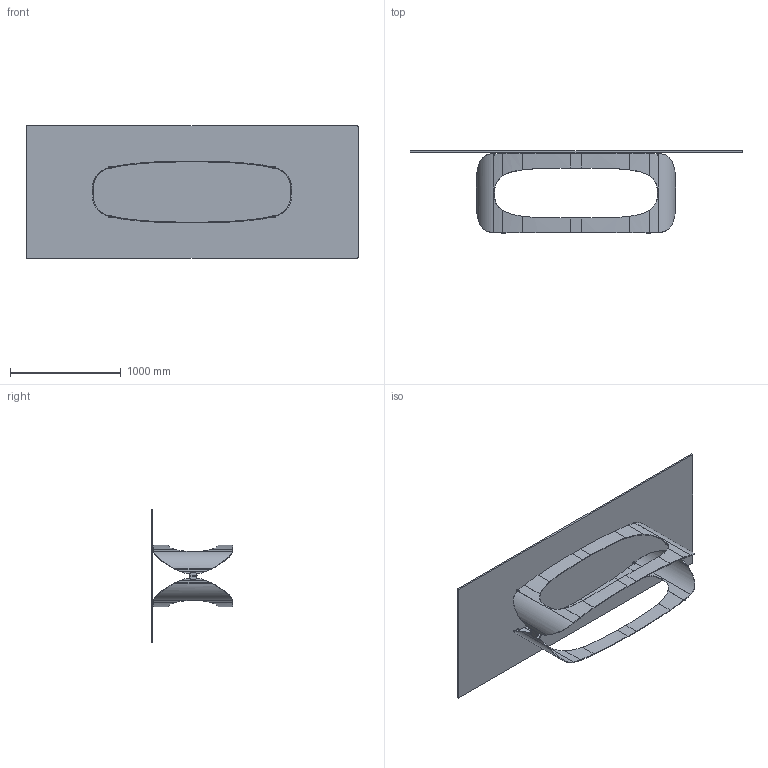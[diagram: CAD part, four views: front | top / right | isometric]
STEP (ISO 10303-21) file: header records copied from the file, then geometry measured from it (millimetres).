
FILE_DESCRIPTION (( 'STEP AP203' ), '1' );
FILE_NAME ('PO24G_Polifemo_300x120_.STEP', '2024-08-06T14:20:07', ( '' ), ( '' ), 'SwSTEP 2.0', 'SolidWorks 2022', '' );
FILE_SCHEMA (( 'CONFIG_CONTROL_DESIGN' ));
Length unit declared in the file: millimetre
Products named in the file (11): POL000001-00-POLIFEMO BASE L300 GREZZO; PST0GR022-01-PIASTRA D22x22H mm+FILETTO M8 AVP-AVZ GREZZO; PO24G_Polifemo_300x120_; POL000000_03B-00-POLIFEMO FREGIO; POL000000_03-01-POLIFEMO FREGIO COMPLETO; PVC Ø19x3; POL000001_01-00-MEZZA BASE POLIFEMO L300 GREZZO; PVC profilo Polifemo 9x8; POL000000_02-02-CILINDRO DI FISSAGGIO Ø12X15 M8; C2XCRXX-00-Piani Rettangolari Cristallo_24 3000x1200; POL000000_03A-01-POLIFEMO FREGIO
Assembly tree (24 placements, depth 3):
  PO24G_Polifemo_300x120_
    POL000001-00-POLIFEMO BASE L300 GREZZO
      POL000001_01-00-MEZZA BASE POLIFEMO L300 GREZZO  x2
      POL000000_02-02-CILINDRO DI FISSAGGIO Ø12X15 M8  x4
    POL000000_03-01-POLIFEMO FREGIO COMPLETO  x2
      POL000000_03A-01-POLIFEMO FREGIO
      POL000000_03B-00-POLIFEMO FREGIO
    PST0GR022-01-PIASTRA D22x22H mm+FILETTO M8 AVP-AVZ GREZZO  x4
    PVC Ø19x3  x4
    PVC profilo Polifemo 9x8  x3
    C2XCRXX-00-Piani Rettangolari Cristallo_24 3000x1200
Bounding box: 3000 x 739.97 x 1200 mm (x, y, z)
Volume: 63196477.5 mm3; surface area: 10530419.5 mm2
Topology: 24 solids, 24 shells, 576 faces, 1440 edges, 918 vertices
Faces by surface type: cylinder 249, plane 155, bspline 152, cone 20
Entity records: 16789 total; most frequent: CARTESIAN_POINT 10339, ORIENTED_EDGE 1164, DIRECTION 809, EDGE_CURVE 582, VERTEX_POINT 370, AXIS2_PLACEMENT_3D 302, EDGE_LOOP 236, FACE_OUTER_BOUND 230
